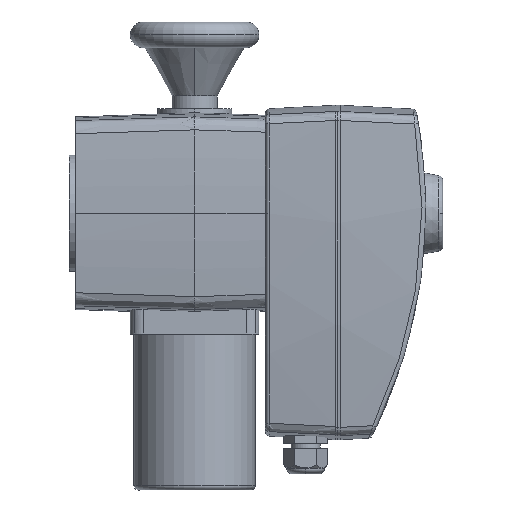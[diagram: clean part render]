
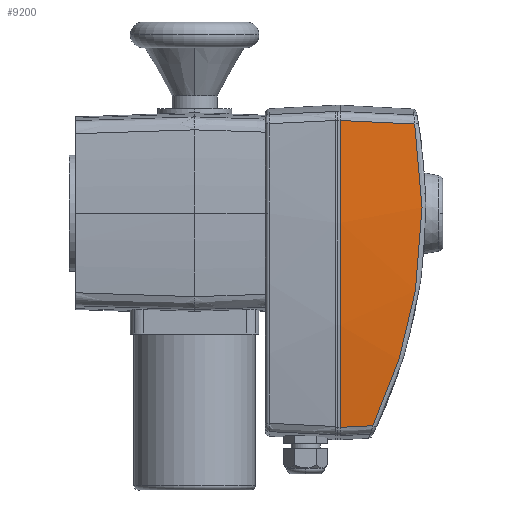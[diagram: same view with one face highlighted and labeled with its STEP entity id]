
A CAD part, left-side view. The second image highlights one B-rep face of the part: STEP entity #9200.
In plain terms, the highlighted free-form (B-spline) face has degree [1, 2] with [2, 9] control points.
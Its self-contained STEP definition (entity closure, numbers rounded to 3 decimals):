
#8243=CARTESIAN_POINT('',(-60.338,-168.44,-133.022));
#8244=VERTEX_POINT('',#8243);
#8260=CARTESIAN_POINT('',(-67.544,-168.44,57.752));
#8261=VERTEX_POINT('',#8260);
#8262=CARTESIAN_POINT('',(932.438,-168.44,-0.001));
#8263=DIRECTION('',(0.0,-1.0,0.0));
#8264=DIRECTION('',(0.0,0.0,-1.0));
#8265=AXIS2_PLACEMENT_3D('',#8262,#8263,#8264);
#8266=CIRCLE('',#8265,1001.648);
#8267=EDGE_CURVE('',#8261,#8244,#8266,.T.);
#8991=CARTESIAN_POINT('',(-65.233,-214.805,55.575));
#8992=VERTEX_POINT('',#8991);
#8993=CARTESIAN_POINT('',(-65.233,-214.805,55.575));
#8994=CARTESIAN_POINT('',(-65.399,-211.475,55.732));
#8995=CARTESIAN_POINT('',(-65.565,-208.145,55.888));
#8996=CARTESIAN_POINT('',(-65.731,-204.815,56.045));
#8997=CARTESIAN_POINT('',(-65.9,-201.427,56.204));
#8998=CARTESIAN_POINT('',(-66.069,-198.038,56.363));
#8999=CARTESIAN_POINT('',(-66.238,-194.65,56.522));
#9000=CARTESIAN_POINT('',(-66.323,-192.956,56.602));
#9001=CARTESIAN_POINT('',(-66.407,-191.262,56.682));
#9002=CARTESIAN_POINT('',(-66.491,-189.568,56.761));
#9003=CARTESIAN_POINT('',(-66.626,-186.857,56.888));
#9004=CARTESIAN_POINT('',(-66.761,-184.146,57.016));
#9005=CARTESIAN_POINT('',(-66.896,-181.436,57.143));
#9006=CARTESIAN_POINT('',(-67.112,-177.104,57.346));
#9007=CARTESIAN_POINT('',(-67.328,-172.772,57.549));
#9008=CARTESIAN_POINT('',(-67.544,-168.44,57.752));
#9009=B_SPLINE_CURVE_WITH_KNOTS('',3,(#8993,#8994,#8995,#8996,#8997,#8998,#8999,#9000,#9001,#9002,#9003,#9004,#9005,#9006,#9007,#9008),.UNSPECIFIED.,.F.,.U.,(4,3,3,3,3,4),(1.378,2.379,3.398,3.908,4.723,6.025),.UNSPECIFIED.);
#9010=EDGE_CURVE('',#8261,#8992,#9009,.F.);
#9133=CARTESIAN_POINT('',(932.438,-168.437,1001.647));
#9134=CARTESIAN_POINT('',(932.438,-219.589,998.966));
#9135=CARTESIAN_POINT('',(1934.086,-168.437,1001.647));
#9136=CARTESIAN_POINT('',(1931.405,-219.589,998.966));
#9137=CARTESIAN_POINT('',(1934.086,-168.437,-0.001));
#9138=CARTESIAN_POINT('',(1931.405,-219.589,-0.001));
#9139=CARTESIAN_POINT('',(1934.086,-168.437,-1001.649));
#9140=CARTESIAN_POINT('',(1931.405,-219.589,-998.968));
#9141=CARTESIAN_POINT('',(932.438,-168.437,-1001.649));
#9142=CARTESIAN_POINT('',(932.438,-219.589,-998.968));
#9143=CARTESIAN_POINT('',(-69.21,-168.437,-1001.649));
#9144=CARTESIAN_POINT('',(-66.529,-219.589,-998.968));
#9145=CARTESIAN_POINT('',(-69.21,-168.437,-0.001));
#9146=CARTESIAN_POINT('',(-66.529,-219.589,-0.001));
#9147=CARTESIAN_POINT('',(-69.21,-168.437,1001.647));
#9148=CARTESIAN_POINT('',(-66.529,-219.589,998.966));
#9149=CARTESIAN_POINT('',(932.438,-168.437,1001.647));
#9150=CARTESIAN_POINT('',(932.438,-219.589,998.966));
#9158=(BOUNDED_SURFACE()B_SPLINE_SURFACE(1,2,((#9133,#9135,#9137,#9139,#9141,#9143,#9145,#9147,#9149),(#9134,#9136,#9138,#9140,#9142,#9144,#9146,#9148,#9150)),.UNSPECIFIED.,.F.,.T.,.U.)B_SPLINE_SURFACE_WITH_KNOTS((2,2),(3,2,2,2,3),(0.001,0.053),(0.0,1573.503,3147.006,4720.509,6294.012),.UNSPECIFIED.)GEOMETRIC_REPRESENTATION_ITEM()RATIONAL_B_SPLINE_SURFACE(((1.0,0.707,1.0,0.707,1.0,0.707,1.0,0.707,1.0),(1.0,0.707,1.0,0.707,1.0,0.707,1.0,0.707,1.0)))REPRESENTATION_ITEM('')SURFACE());
#9159=ORIENTED_EDGE('',*,*,#8267,.T.);
#9160=CARTESIAN_POINT('',(-59.392,-188.825,-132.034));
#9161=VERTEX_POINT('',#9160);
#9162=CARTESIAN_POINT('',(-60.338,-168.44,-133.022));
#9163=CARTESIAN_POINT('',(-60.131,-172.896,-132.807));
#9164=CARTESIAN_POINT('',(-59.925,-177.352,-132.591));
#9165=CARTESIAN_POINT('',(-59.718,-181.807,-132.375));
#9166=CARTESIAN_POINT('',(-59.609,-184.147,-132.261));
#9167=CARTESIAN_POINT('',(-59.501,-186.486,-132.148));
#9168=CARTESIAN_POINT('',(-59.392,-188.825,-132.034));
#9169=B_SPLINE_CURVE_WITH_KNOTS('',3,(#9162,#9163,#9164,#9165,#9166,#9167,#9168),.UNSPECIFIED.,.F.,.U.,(4,3,4),(0.747,2.087,2.79),.UNSPECIFIED.);
#9170=EDGE_CURVE('',#9161,#8244,#9169,.F.);
#9171=ORIENTED_EDGE('',*,*,#9170,.F.);
#9172=CARTESIAN_POINT('',(-65.233,-214.805,55.575));
#9173=CARTESIAN_POINT('',(-65.748,-216.718,44.531));
#9174=CARTESIAN_POINT('',(-66.117,-218.039,33.34));
#9175=CARTESIAN_POINT('',(-66.329,-218.75,22.105));
#9176=CARTESIAN_POINT('',(-66.57,-219.562,9.266));
#9177=CARTESIAN_POINT('',(-66.606,-219.576,-3.617));
#9178=CARTESIAN_POINT('',(-66.436,-218.799,-16.421));
#9179=CARTESIAN_POINT('',(-66.33,-218.313,-24.425));
#9180=CARTESIAN_POINT('',(-66.144,-217.517,-32.421));
#9181=CARTESIAN_POINT('',(-65.88,-216.413,-40.372));
#9182=CARTESIAN_POINT('',(-65.748,-215.861,-44.347));
#9183=CARTESIAN_POINT('',(-65.597,-215.232,-48.312));
#9184=CARTESIAN_POINT('',(-65.427,-214.527,-52.26));
#9185=CARTESIAN_POINT('',(-65.156,-213.4,-58.577));
#9186=CARTESIAN_POINT('',(-64.836,-212.079,-64.849));
#9187=CARTESIAN_POINT('',(-64.472,-210.567,-71.072));
#9188=CARTESIAN_POINT('',(-63.889,-208.147,-81.029));
#9189=CARTESIAN_POINT('',(-63.19,-205.23,-90.884));
#9190=CARTESIAN_POINT('',(-62.39,-201.836,-100.564));
#9191=CARTESIAN_POINT('',(-61.503,-198.071,-111.302));
#9192=CARTESIAN_POINT('',(-60.493,-193.718,-121.823));
#9193=CARTESIAN_POINT('',(-59.392,-188.825,-132.034));
#9194=B_SPLINE_CURVE_WITH_KNOTS('',3,(#9172,#9173,#9174,#9175,#9176,#9177,#9178,#9179,#9180,#9181,#9182,#9183,#9184,#9185,#9186,#9187,#9188,#9189,#9190,#9191,#9192,#9193),.UNSPECIFIED.,.F.,.U.,(4,3,3,3,3,3,3,4),(0.,3.358,7.196,9.594,10.794,12.712,15.783,19.189),.UNSPECIFIED.);
#9195=EDGE_CURVE('',#8992,#9161,#9194,.T.);
#9196=ORIENTED_EDGE('',*,*,#9195,.F.);
#9197=ORIENTED_EDGE('',*,*,#9010,.F.);
#9198=EDGE_LOOP('',(#9159,#9171,#9196,#9197));
#9199=FACE_OUTER_BOUND('',#9198,.T.);
#9200=ADVANCED_FACE('',(#9199),#9158,.T.);
